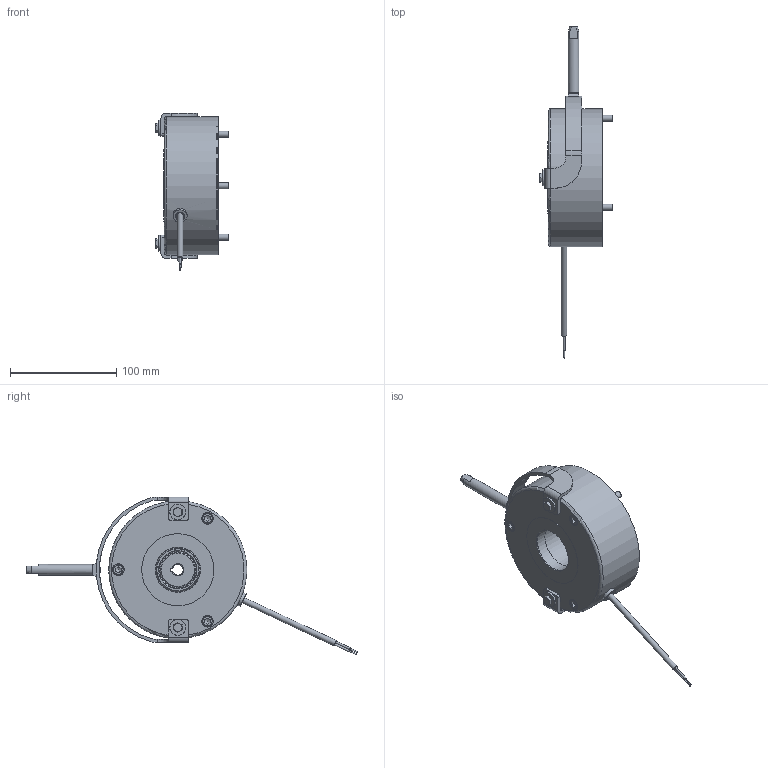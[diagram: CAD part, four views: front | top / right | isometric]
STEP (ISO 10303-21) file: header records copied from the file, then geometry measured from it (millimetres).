
FILE_DESCRIPTION(/* description */ (''),/* implementation_level */ '2;1');
FILE_NAME(/* name */ 'C:\SapWorkDir\Inventor\IP1\ConvertTempPath\5028627_IPT_000.ipt.stp',/* time_stamp */ '2020-09-11T13:46:14+02:00',/* author */ ('STRATE'),/* organization */ (''),/* preprocessor_version */ 'ST-DEVELOPER v17',/* originating_system */ 'Autodesk Inventor 2018',/* authorisation */ '');
FILE_SCHEMA (('AUTOMOTIVE_DESIGN { 1 0 10303 214 3 1 1 }'));
Length unit declared in the file: millimetre
Products named in the file (1): 5028627
Bounding box: 69.5 x 312.79 x 148.81 mm (x, y, z)
Volume: 590059.7 mm3; surface area: 126868.8 mm2
Topology: 3 solids, 3 shells, 542 faces, 1452 edges, 976 vertices
Faces by surface type: cylinder 305, plane 160, cone 58, torus 19
Full cylindrical faces by diameter (mm): 1 x2, 1.85 x2, 5 x4, 5.3 x5, 5.5 x2, 6 x8, 6.2 x3, 6.3 x2, 6.5 x5, 6.6 x1, 6.9 x7, 8.5 x2, 8.8 x2, 9.2 x2, 9.9 x3, 10 x6, 11 x3, 13.2 x1, 15 x2, 42 x1, 44 x2, 65.7 x2, 66.1 x2, 68 x1, 95 x1, 120 x1, 122 x1, 128 x1, 130 x1
Entity records: 18647 total; most frequent: CARTESIAN_POINT 4332, ORIENTED_EDGE 2906, DIRECTION 2855, EDGE_CURVE 1453, AXIS2_PLACEMENT_3D 1162, VERTEX_POINT 976, EDGE_LOOP 635, CIRCLE 619
